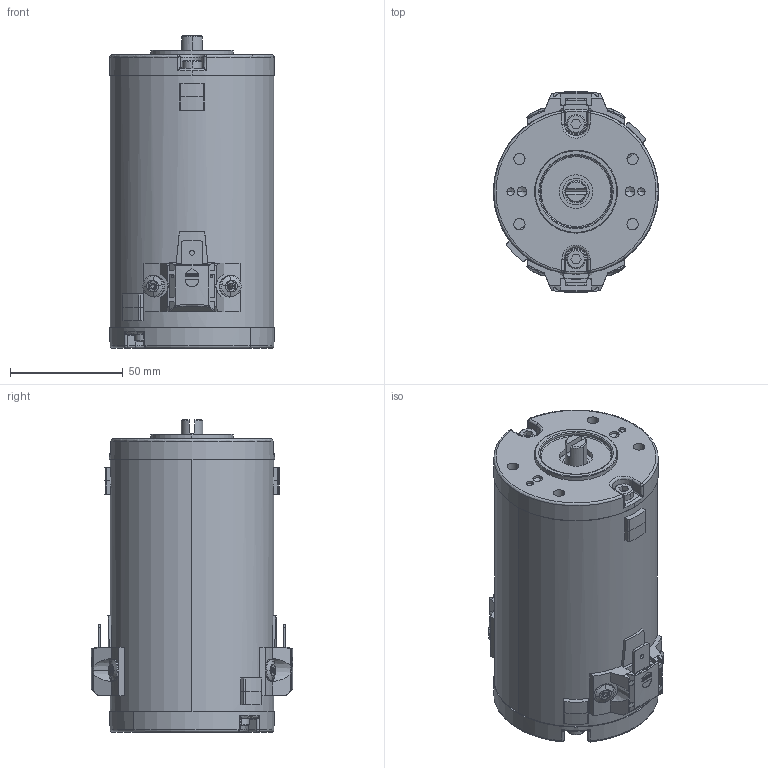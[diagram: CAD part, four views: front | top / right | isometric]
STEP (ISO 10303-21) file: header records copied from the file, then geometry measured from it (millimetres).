
FILE_DESCRIPTION (( 'STEP AP214' ), '1' );
FILE_NAME ('EPM50-38.STEP', '2021-07-05T14:11:19', ( '' ), ( '' ), 'SwSTEP 2.0', 'SolidWorks 2020', '' );
FILE_SCHEMA (( 'AUTOMOTIVE_DESIGN' ));
Length unit declared in the file: millimetre
Products named in the file (1): EPM50-38
Bounding box: 73.32 x 89.43 x 138.67 mm (x, y, z)
Surface area: 50244.6 mm2 (no closed solid volume)
Topology: 0 solids, 30 shells, 501 faces, 1584 edges, 1080 vertices
Faces by surface type: plane 202, cylinder 114, cone 105, bspline 57, torus 19, sphere 4
Entity records: 27036 total; most frequent: CARTESIAN_POINT 8660, ORIENTED_EDGE 2574, DIRECTION 2474, EDGE_CURVE 1560, VERTEX_POINT 1080, AXIS2_PLACEMENT_3D 876, LINE 722, VECTOR 722
